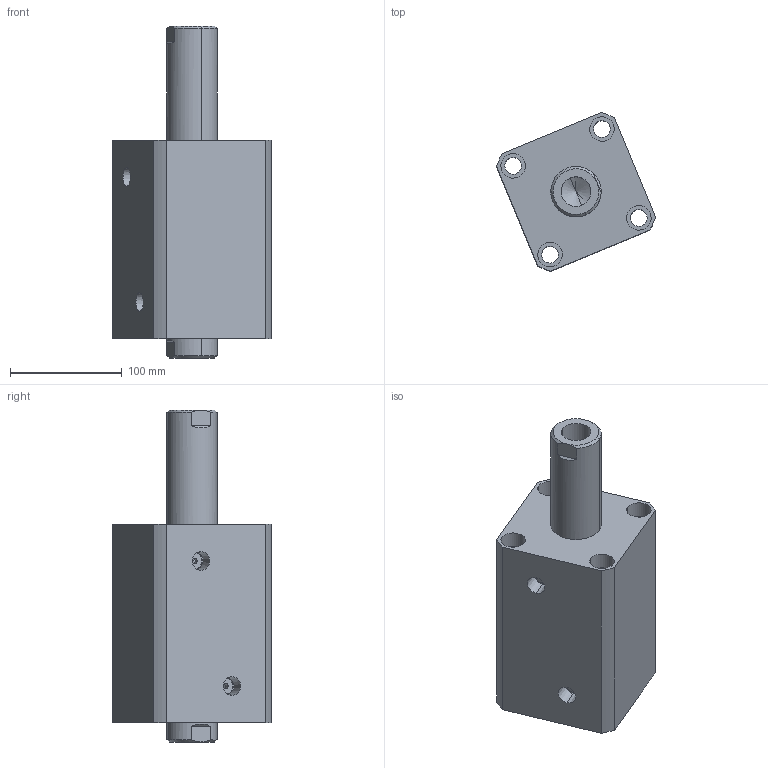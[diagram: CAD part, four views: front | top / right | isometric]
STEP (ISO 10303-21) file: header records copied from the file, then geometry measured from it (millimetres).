
FILE_DESCRIPTION (( 'STEP AP214' ), '1' );
FILE_NAME ('chtb-sw80x85n_asm.STEP', '2018-05-28T00:55:13', ( 'Windows' ), ( 'Microsoft' ), 'SwSTEP 2.0', 'SolidWorks 2015', '' );
FILE_SCHEMA (( 'AUTOMOTIVE_DESIGN' ));
Length unit declared in the file: millimetre
Products named in the file (4): CHTB-SW80X85NBT; CHTB-SD80X85NHSG; CHTB-SD80QG; chtb-sw80x85n_asm
Assembly tree (3 placements, depth 2):
  chtb-sw80x85n_asm
    CHTB-SD80QG
    CHTB-SD80X85NHSG
    CHTB-SW80X85NBT
Bounding box: 142.06 x 142.06 x 297 mm (x, y, z)
Volume: 1967307.4 mm3; surface area: 268123.5 mm2
Topology: 3 solids, 3 shells, 208 faces, 550 edges, 365 vertices
Faces by surface type: cylinder 109, plane 42, cone 25, torus 18, bspline 14
Entity records: 15645 total; most frequent: CARTESIAN_POINT 10539, ORIENTED_EDGE 1084, DIRECTION 970, EDGE_CURVE 542, AXIS2_PLACEMENT_3D 407, VERTEX_POINT 365, EDGE_LOOP 249, FACE_OUTER_BOUND 208
